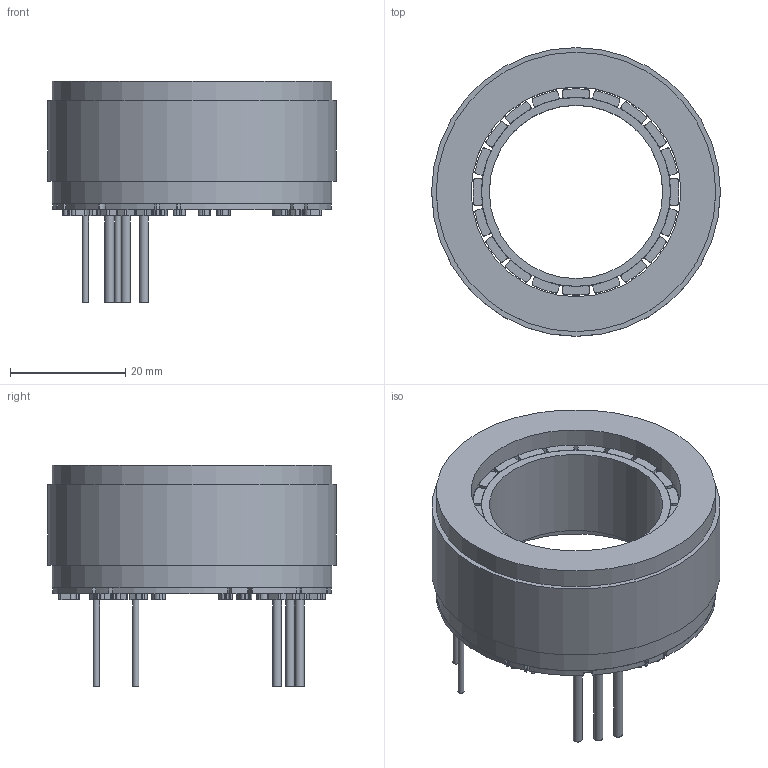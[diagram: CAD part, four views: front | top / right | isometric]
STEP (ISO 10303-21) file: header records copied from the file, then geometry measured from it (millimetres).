
FILE_DESCRIPTION( ('This file contains a STEP AP42 implementation' ,'as created by ZW3D STEP Interface translator.') ,'2;1' );
FILE_NAME( 'FM2-5014.stp' ,'251027.135516', (''), ('ZWCAD Software Co.'), 'Version 1.0', 'ZW3D to STEP translator', '' );
FILE_SCHEMA(('AUTOMOTIVE_DESIGN { 1 0 10303 214 1 1 1 1 }'));
Length unit declared in the file: millimetre
Products named in the file (4): 0; FM2-5014; 5014隅赽; 5014蛌赽
Assembly tree (2 placements, depth 2):
  0
  FM2-5014
    5014隅赽
    5014蛌赽
Bounding box: 50 x 50 x 38.3 mm (x, y, z)
Volume: 23932.4 mm3; surface area: 20298.9 mm2
Topology: 25 solids, 25 shells, 518 faces, 1723 edges, 1685 vertices
Faces by surface type: plane 266, cylinder 252
Full cylindrical faces by diameter (mm): 1.1 x2, 1.56 x3, 30 x1, 32.7 x1, 36.3 x3, 36.7 x1, 48.4 x2, 50 x1
Entity records: 19278 total; most frequent: DIRECTION 3530, CARTESIAN_POINT 3174, ORIENTED_EDGE 2676, EDGE_CURVE 1338, AXIS2_PLACEMENT_3D 1282, VECTOR 966, LINE 966, VERTEX_POINT 880
